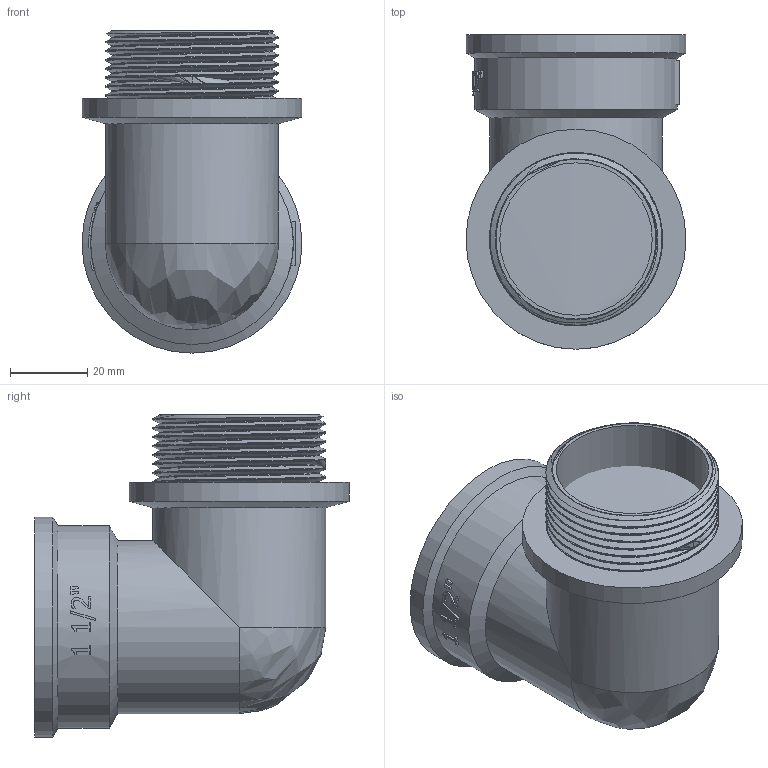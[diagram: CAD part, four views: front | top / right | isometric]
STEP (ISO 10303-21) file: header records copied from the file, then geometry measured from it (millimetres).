
FILE_DESCRIPTION(/* description */ (''),/* implementation_level */ '2;1');
FILE_NAME(/* name */ 'C:\Users\Doom\Desktop\Фадотех\Резьба\U15 18.03.2020\U15 18.03.2020.stp',/* time_stamp */ '2022-01-22T00:34:10+02:00',/* author */ ('Doom'),/* organization */ (''),/* preprocessor_version */ 'ST-DEVELOPER v18',/* originating_system */ 'Autodesk Inventor 2020',/* authorisation */ '');
FILE_SCHEMA (('AUTOMOTIVE_DESIGN { 1 0 10303 214 3 1 1 }'));
Length unit declared in the file: millimetre
Products named in the file (1): U12 18.03.2020
Bounding box: 57 x 81.5 x 83.5 mm (x, y, z)
Volume: 51026.5 mm3; surface area: 47827 mm2
Topology: 3 solids, 3 shells, 141 faces, 390 edges, 259 vertices
Faces by surface type: plane 68, cylinder 37, bspline 31, cone 5
Full cylindrical faces by diameter (mm): 39.5 x3, 41.426 x2, 44.376 x8, 44.8 x2, 44.85 x7, 47.8 x2, 52.5 x1, 57 x2
Entity records: 13686 total; most frequent: CARTESIAN_POINT 10258, ORIENTED_EDGE 764, DIRECTION 606, EDGE_CURVE 382, VERTEX_POINT 257, AXIS2_PLACEMENT_3D 220, LINE 166, VECTOR 166
